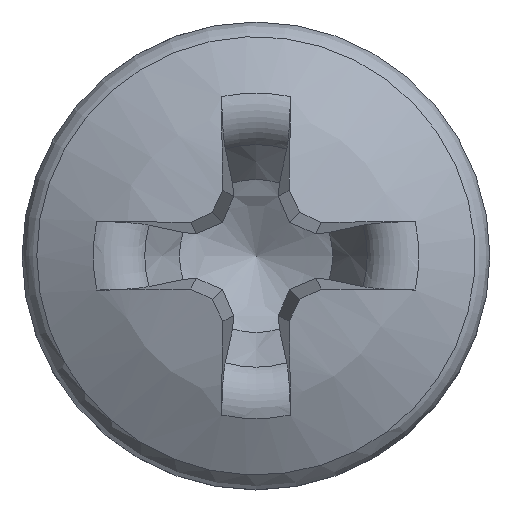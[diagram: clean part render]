
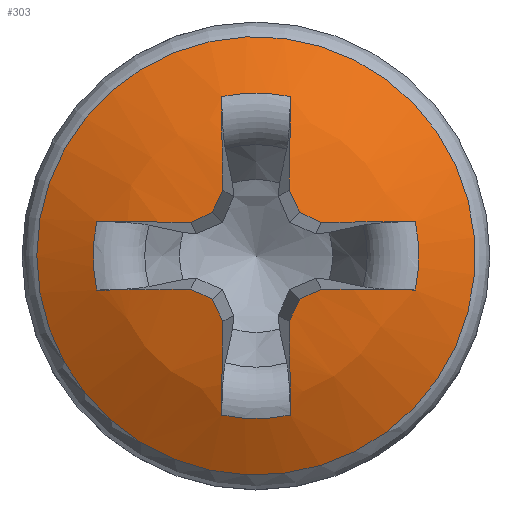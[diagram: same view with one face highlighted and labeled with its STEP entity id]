
A CAD part, top view. The second image highlights one B-rep face of the part: STEP entity #303.
In plain terms, the highlighted spherical face has radius 6.211 mm.
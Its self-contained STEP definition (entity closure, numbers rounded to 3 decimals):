
#266=SPHERICAL_SURFACE('',#1682,6.211);
#277=FACE_BOUND('',#502,.T.);
#278=FACE_BOUND('',#503,.T.);
#303=ADVANCED_FACE('',(#277,#278),#266,.T.);
#502=EDGE_LOOP('',(#701));
#503=EDGE_LOOP('',(#702,#703,#704,#705,#706,#707,#708,#709,#710,#711,#712,
#713,#714,#715,#716,#717,#718,#719,#720,#721));
#612=CIRCLE('',#1661,3.28);
#613=CIRCLE('',#1662,6.211);
#614=CIRCLE('',#1663,2.437);
#615=CIRCLE('',#1664,6.211);
#616=CIRCLE('',#1665,6.206);
#617=CIRCLE('',#1666,6.206);
#618=CIRCLE('',#1667,6.211);
#619=CIRCLE('',#1668,2.437);
#620=CIRCLE('',#1669,6.211);
#621=CIRCLE('',#1670,6.206);
#622=CIRCLE('',#1671,6.206);
#623=CIRCLE('',#1672,6.211);
#624=CIRCLE('',#1673,2.437);
#625=CIRCLE('',#1674,6.211);
#626=CIRCLE('',#1675,6.206);
#627=CIRCLE('',#1676,6.206);
#628=CIRCLE('',#1677,6.211);
#629=CIRCLE('',#1678,2.437);
#630=CIRCLE('',#1679,6.211);
#631=CIRCLE('',#1680,6.206);
#632=CIRCLE('',#1681,6.206);
#701=ORIENTED_EDGE('',*,*,#1334,.T.);
#702=ORIENTED_EDGE('',*,*,#1335,.F.);
#703=ORIENTED_EDGE('',*,*,#1336,.T.);
#704=ORIENTED_EDGE('',*,*,#1337,.F.);
#705=ORIENTED_EDGE('',*,*,#1338,.F.);
#706=ORIENTED_EDGE('',*,*,#1339,.F.);
#707=ORIENTED_EDGE('',*,*,#1340,.F.);
#708=ORIENTED_EDGE('',*,*,#1341,.T.);
#709=ORIENTED_EDGE('',*,*,#1342,.F.);
#710=ORIENTED_EDGE('',*,*,#1343,.F.);
#711=ORIENTED_EDGE('',*,*,#1344,.F.);
#712=ORIENTED_EDGE('',*,*,#1345,.F.);
#713=ORIENTED_EDGE('',*,*,#1346,.T.);
#714=ORIENTED_EDGE('',*,*,#1347,.F.);
#715=ORIENTED_EDGE('',*,*,#1348,.F.);
#716=ORIENTED_EDGE('',*,*,#1349,.F.);
#717=ORIENTED_EDGE('',*,*,#1350,.F.);
#718=ORIENTED_EDGE('',*,*,#1351,.T.);
#719=ORIENTED_EDGE('',*,*,#1352,.F.);
#720=ORIENTED_EDGE('',*,*,#1353,.F.);
#721=ORIENTED_EDGE('',*,*,#1354,.F.);
#1181=VERTEX_POINT('',#4354);
#1182=VERTEX_POINT('',#4356);
#1183=VERTEX_POINT('',#4357);
#1184=VERTEX_POINT('',#4359);
#1185=VERTEX_POINT('',#4361);
#1186=VERTEX_POINT('',#4363);
#1187=VERTEX_POINT('',#4365);
#1188=VERTEX_POINT('',#4367);
#1189=VERTEX_POINT('',#4369);
#1190=VERTEX_POINT('',#4371);
#1191=VERTEX_POINT('',#4373);
#1192=VERTEX_POINT('',#4375);
#1193=VERTEX_POINT('',#4377);
#1194=VERTEX_POINT('',#4379);
#1195=VERTEX_POINT('',#4381);
#1196=VERTEX_POINT('',#4383);
#1197=VERTEX_POINT('',#4385);
#1198=VERTEX_POINT('',#4387);
#1199=VERTEX_POINT('',#4389);
#1200=VERTEX_POINT('',#4391);
#1201=VERTEX_POINT('',#4393);
#1334=EDGE_CURVE('',#1181,#1181,#612,.T.);
#1335=EDGE_CURVE('',#1182,#1183,#613,.T.);
#1336=EDGE_CURVE('',#1182,#1184,#614,.T.);
#1337=EDGE_CURVE('',#1185,#1184,#615,.T.);
#1338=EDGE_CURVE('',#1186,#1185,#616,.T.);
#1339=EDGE_CURVE('',#1187,#1186,#617,.T.);
#1340=EDGE_CURVE('',#1188,#1187,#618,.T.);
#1341=EDGE_CURVE('',#1188,#1189,#619,.T.);
#1342=EDGE_CURVE('',#1190,#1189,#620,.T.);
#1343=EDGE_CURVE('',#1191,#1190,#621,.T.);
#1344=EDGE_CURVE('',#1192,#1191,#622,.T.);
#1345=EDGE_CURVE('',#1193,#1192,#623,.T.);
#1346=EDGE_CURVE('',#1193,#1194,#624,.T.);
#1347=EDGE_CURVE('',#1195,#1194,#625,.T.);
#1348=EDGE_CURVE('',#1196,#1195,#626,.T.);
#1349=EDGE_CURVE('',#1197,#1196,#627,.T.);
#1350=EDGE_CURVE('',#1198,#1197,#628,.T.);
#1351=EDGE_CURVE('',#1198,#1199,#629,.T.);
#1352=EDGE_CURVE('',#1200,#1199,#630,.T.);
#1353=EDGE_CURVE('',#1201,#1200,#631,.T.);
#1354=EDGE_CURVE('',#1183,#1201,#632,.T.);
#1661=AXIS2_PLACEMENT_3D('',#4353,#1746,#1747);
#1662=AXIS2_PLACEMENT_3D('',#4355,#1748,#1749);
#1663=AXIS2_PLACEMENT_3D('',#4358,#1750,#1751);
#1664=AXIS2_PLACEMENT_3D('',#4360,#1752,#1753);
#1665=AXIS2_PLACEMENT_3D('',#4362,#1754,#1755);
#1666=AXIS2_PLACEMENT_3D('',#4364,#1756,#1757);
#1667=AXIS2_PLACEMENT_3D('',#4366,#1758,#1759);
#1668=AXIS2_PLACEMENT_3D('',#4368,#1760,#1761);
#1669=AXIS2_PLACEMENT_3D('',#4370,#1762,#1763);
#1670=AXIS2_PLACEMENT_3D('',#4372,#1764,#1765);
#1671=AXIS2_PLACEMENT_3D('',#4374,#1766,#1767);
#1672=AXIS2_PLACEMENT_3D('',#4376,#1768,#1769);
#1673=AXIS2_PLACEMENT_3D('',#4378,#1770,#1771);
#1674=AXIS2_PLACEMENT_3D('',#4380,#1772,#1773);
#1675=AXIS2_PLACEMENT_3D('',#4382,#1774,#1775);
#1676=AXIS2_PLACEMENT_3D('',#4384,#1776,#1777);
#1677=AXIS2_PLACEMENT_3D('',#4386,#1778,#1779);
#1678=AXIS2_PLACEMENT_3D('',#4388,#1780,#1781);
#1679=AXIS2_PLACEMENT_3D('',#4390,#1782,#1783);
#1680=AXIS2_PLACEMENT_3D('',#4392,#1784,#1785);
#1681=AXIS2_PLACEMENT_3D('',#4394,#1786,#1787);
#1682=AXIS2_PLACEMENT_3D('',#4395,#1788,#1789);
#1746=DIRECTION('',(0.,0.,1.));
#1747=DIRECTION('',(-1.,0.,0.));
#1748=DIRECTION('',(-0.035,0.996,0.087));
#1749=DIRECTION('',(0.,-0.087,0.996));
#1750=DIRECTION('',(0.,0.,-1.));
#1751=DIRECTION('',(-1.,0.,0.));
#1752=DIRECTION('',(-0.035,-0.996,0.087));
#1753=DIRECTION('',(0.,-0.087,-0.996));
#1754=DIRECTION('',(0.42,-0.902,0.1));
#1755=DIRECTION('',(0.906,0.423,0.));
#1756=DIRECTION('',(0.902,-0.42,0.1));
#1757=DIRECTION('',(0.423,0.906,0.));
#1758=DIRECTION('',(0.996,0.035,0.087));
#1759=DIRECTION('',(0.087,0.,-0.996));
#1760=DIRECTION('',(0.,0.,-1.));
#1761=DIRECTION('',(-1.,0.,0.));
#1762=DIRECTION('',(-0.996,0.035,0.087));
#1763=DIRECTION('',(0.087,0.,0.996));
#1764=DIRECTION('',(-0.902,-0.42,0.1));
#1765=DIRECTION('',(0.423,-0.906,0.));
#1766=DIRECTION('',(-0.42,-0.902,0.1));
#1767=DIRECTION('',(0.906,-0.423,0.));
#1768=DIRECTION('',(0.035,-0.996,0.087));
#1769=DIRECTION('',(0.,-0.087,-0.996));
#1770=DIRECTION('',(0.,0.,-1.));
#1771=DIRECTION('',(-1.,0.,0.));
#1772=DIRECTION('',(0.035,0.996,0.087));
#1773=DIRECTION('',(0.,-0.087,0.996));
#1774=DIRECTION('',(-0.42,0.902,0.1));
#1775=DIRECTION('',(-0.906,-0.423,0.));
#1776=DIRECTION('',(-0.902,0.42,0.1));
#1777=DIRECTION('',(-0.423,-0.906,0.));
#1778=DIRECTION('',(-0.996,-0.035,0.087));
#1779=DIRECTION('',(0.087,0.,0.996));
#1780=DIRECTION('',(0.,0.,-1.));
#1781=DIRECTION('',(-1.,0.,0.));
#1782=DIRECTION('',(0.996,-0.035,0.087));
#1783=DIRECTION('',(0.087,0.,-0.996));
#1784=DIRECTION('',(0.902,0.42,0.1));
#1785=DIRECTION('',(-0.423,0.906,0.));
#1786=DIRECTION('',(0.42,0.902,0.1));
#1787=DIRECTION('',(-0.906,0.423,0.));
#1788=DIRECTION('',(0.,0.,1.));
#1789=DIRECTION('',(0.,1.,0.));
#4353=CARTESIAN_POINT('',(0.,0.,1.763));
#4354=CARTESIAN_POINT('',(-3.28,0.,1.763));
#4355=CARTESIAN_POINT('',(-0.002,0.071,-3.505));
#4356=CARTESIAN_POINT('',(-2.383,-0.511,2.202));
#4357=CARTESIAN_POINT('',(-0.979,-0.497,2.602));
#4358=CARTESIAN_POINT('',(0.,0.,2.202));
#4359=CARTESIAN_POINT('',(-2.383,0.511,2.202));
#4360=CARTESIAN_POINT('',(-0.002,-0.071,-3.505));
#4361=CARTESIAN_POINT('',(-0.979,0.497,2.602));
#4362=CARTESIAN_POINT('',(-0.104,0.223,-3.536));
#4363=CARTESIAN_POINT('',(-0.653,0.653,2.631));
#4364=CARTESIAN_POINT('',(-0.223,0.104,-3.536));
#4365=CARTESIAN_POINT('',(-0.497,0.979,2.602));
#4366=CARTESIAN_POINT('',(0.071,0.002,-3.505));
#4367=CARTESIAN_POINT('',(-0.511,2.383,2.202));
#4368=CARTESIAN_POINT('',(0.,0.,2.202));
#4369=CARTESIAN_POINT('',(0.511,2.383,2.202));
#4370=CARTESIAN_POINT('',(-0.071,0.002,-3.505));
#4371=CARTESIAN_POINT('',(0.497,0.979,2.602));
#4372=CARTESIAN_POINT('',(0.223,0.104,-3.536));
#4373=CARTESIAN_POINT('',(0.653,0.653,2.631));
#4374=CARTESIAN_POINT('',(0.104,0.223,-3.536));
#4375=CARTESIAN_POINT('',(0.979,0.497,2.602));
#4376=CARTESIAN_POINT('',(0.002,-0.071,-3.505));
#4377=CARTESIAN_POINT('',(2.383,0.511,2.202));
#4378=CARTESIAN_POINT('',(0.,0.,2.202));
#4379=CARTESIAN_POINT('',(2.383,-0.511,2.202));
#4380=CARTESIAN_POINT('',(0.002,0.071,-3.505));
#4381=CARTESIAN_POINT('',(0.979,-0.497,2.602));
#4382=CARTESIAN_POINT('',(0.104,-0.223,-3.536));
#4383=CARTESIAN_POINT('',(0.653,-0.653,2.631));
#4384=CARTESIAN_POINT('',(0.223,-0.104,-3.536));
#4385=CARTESIAN_POINT('',(0.497,-0.979,2.602));
#4386=CARTESIAN_POINT('',(-0.071,-0.002,-3.505));
#4387=CARTESIAN_POINT('',(0.511,-2.383,2.202));
#4388=CARTESIAN_POINT('',(0.,0.,2.202));
#4389=CARTESIAN_POINT('',(-0.511,-2.383,2.202));
#4390=CARTESIAN_POINT('',(0.071,-0.002,-3.505));
#4391=CARTESIAN_POINT('',(-0.497,-0.979,2.602));
#4392=CARTESIAN_POINT('',(-0.223,-0.104,-3.536));
#4393=CARTESIAN_POINT('',(-0.653,-0.653,2.631));
#4394=CARTESIAN_POINT('',(-0.104,-0.223,-3.536));
#4395=CARTESIAN_POINT('',(0.,0.,-3.511));
